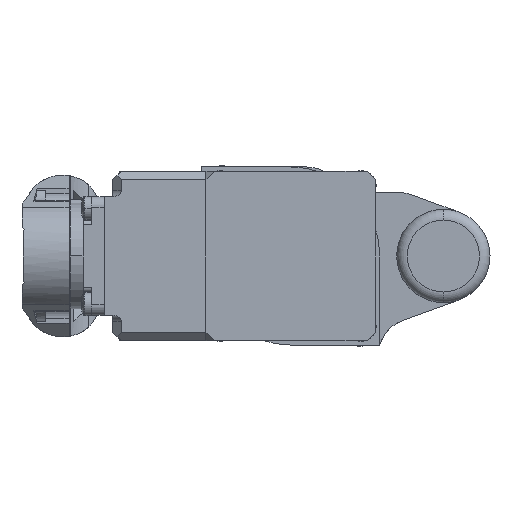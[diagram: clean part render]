
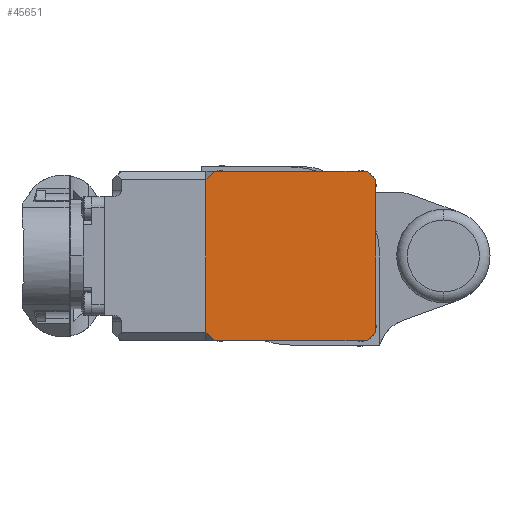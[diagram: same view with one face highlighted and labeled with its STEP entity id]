
A CAD part, left-side view. The second image highlights one B-rep face of the part: STEP entity #45651.
In plain terms, the highlighted planar face has unit normal (-1, 0, 0).
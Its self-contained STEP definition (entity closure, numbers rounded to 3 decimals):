
#1064 = FACE_OUTER_BOUND ( 'NONE', #23721, .T. ) ;
#1129 = VERTEX_POINT ( 'NONE', #48889 ) ;
#1259 = CARTESIAN_POINT ( 'NONE',  ( -113., -20., -18. ) ) ;
#2090 = LINE ( 'NONE', #30607, #35230 ) ;
#3948 = CARTESIAN_POINT ( 'NONE',  ( -113., 20., 18. ) ) ;
#4018 = DIRECTION ( 'NONE',  ( 0., 1., 0. ) ) ;
#4663 = LINE ( 'NONE', #3948, #49328 ) ;
#4700 = DIRECTION ( 'NONE',  ( 0., -1., 0. ) ) ;
#4919 = CARTESIAN_POINT ( 'NONE',  ( -113., -20., 18. ) ) ;
#5724 = VERTEX_POINT ( 'NONE', #4919 ) ;
#6969 = CARTESIAN_POINT ( 'NONE',  ( -113., -18., -20. ) ) ;
#10094 = VECTOR ( 'NONE', #19679, 1000. ) ;
#10896 = EDGE_CURVE ( 'NONE', #5724, #38551, #12796, .T. ) ;
#10958 = CARTESIAN_POINT ( 'NONE',  ( -113., -20., -18. ) ) ;
#11073 = EDGE_CURVE ( 'NONE', #36171, #18316, #4663, .T. ) ;
#11147 = VERTEX_POINT ( 'NONE', #43496 ) ;
#11617 = CARTESIAN_POINT ( 'NONE',  ( -113., 0., 0. ) ) ;
#12411 = DIRECTION ( 'NONE',  ( 0., -0.707, -0.707 ) ) ;
#12590 = DIRECTION ( 'NONE',  ( 0., 0.707, -0.707 ) ) ;
#12796 = LINE ( 'NONE', #41233, #10094 ) ;
#13290 = CARTESIAN_POINT ( 'NONE',  ( -113., -18., -20. ) ) ;
#14614 = ORIENTED_EDGE ( 'NONE', *, *, #55099, .T. ) ;
#14779 = ORIENTED_EDGE ( 'NONE', *, *, #11073, .T. ) ;
#15298 = DIRECTION ( 'NONE',  ( 0., 0., 1. ) ) ;
#17001 = EDGE_CURVE ( 'NONE', #38551, #1129, #22516, .T. ) ;
#18122 = ORIENTED_EDGE ( 'NONE', *, *, #29384, .T. ) ;
#18316 = VERTEX_POINT ( 'NONE', #23942 ) ;
#18357 = VECTOR ( 'NONE', #22030, 1000. ) ;
#18506 = CARTESIAN_POINT ( 'NONE',  ( -113., 20., 18. ) ) ;
#19679 = DIRECTION ( 'NONE',  ( 0., 0.707, 0.707 ) ) ;
#20319 = PLANE ( 'NONE',  #35092 ) ;
#21880 = LINE ( 'NONE', #38283, #44883 ) ;
#22030 = DIRECTION ( 'NONE',  ( 0., -0.707, 0.707 ) ) ;
#22516 = LINE ( 'NONE', #34264, #32627 ) ;
#23721 = EDGE_LOOP ( 'NONE', ( #18122, #45133, #39787, #50421, #14614, #14779, #48460, #42473 ) ) ;
#23742 = EDGE_CURVE ( 'NONE', #11147, #51882, #2090, .T. ) ;
#23942 = CARTESIAN_POINT ( 'NONE',  ( -113., 20., -18. ) ) ;
#24655 = DIRECTION ( 'NONE',  ( 0., 0., 1. ) ) ;
#26773 = LINE ( 'NONE', #10958, #36876 ) ;
#29384 = EDGE_CURVE ( 'NONE', #51882, #34156, #29815, .T. ) ;
#29815 = LINE ( 'NONE', #13290, #18357 ) ;
#30607 = CARTESIAN_POINT ( 'NONE',  ( -113., 18., -20. ) ) ;
#30993 = LINE ( 'NONE', #42861, #32320 ) ;
#31792 = CARTESIAN_POINT ( 'NONE',  ( -113., -18., 20. ) ) ;
#32320 = VECTOR ( 'NONE', #12590, 1000. ) ;
#32627 = VECTOR ( 'NONE', #4018, 1000. ) ;
#34156 = VERTEX_POINT ( 'NONE', #1259 ) ;
#34197 = DIRECTION ( 'NONE',  ( 0., 0., -1. ) ) ;
#34264 = CARTESIAN_POINT ( 'NONE',  ( -113., -18., 20. ) ) ;
#35092 = AXIS2_PLACEMENT_3D ( 'NONE', #11617, #50556, #24655 ) ;
#35230 = VECTOR ( 'NONE', #4700, 1000. ) ;
#35592 = EDGE_CURVE ( 'NONE', #18316, #11147, #21880, .T. ) ;
#36171 = VERTEX_POINT ( 'NONE', #18506 ) ;
#36876 = VECTOR ( 'NONE', #15298, 1000. ) ;
#38283 = CARTESIAN_POINT ( 'NONE',  ( -113., 20., -18. ) ) ;
#38551 = VERTEX_POINT ( 'NONE', #31792 ) ;
#39787 = ORIENTED_EDGE ( 'NONE', *, *, #10896, .T. ) ;
#41233 = CARTESIAN_POINT ( 'NONE',  ( -113., -20., 18. ) ) ;
#42261 = EDGE_CURVE ( 'NONE', #34156, #5724, #26773, .T. ) ;
#42473 = ORIENTED_EDGE ( 'NONE', *, *, #23742, .T. ) ;
#42861 = CARTESIAN_POINT ( 'NONE',  ( -113., 18., 20. ) ) ;
#43496 = CARTESIAN_POINT ( 'NONE',  ( -113., 18., -20. ) ) ;
#44883 = VECTOR ( 'NONE', #12411, 1000. ) ;
#45133 = ORIENTED_EDGE ( 'NONE', *, *, #42261, .T. ) ;
#45651 = ADVANCED_FACE ( 'NONE', ( #1064 ), #20319, .T. ) ;
#48460 = ORIENTED_EDGE ( 'NONE', *, *, #35592, .T. ) ;
#48889 = CARTESIAN_POINT ( 'NONE',  ( -113., 18., 20. ) ) ;
#49328 = VECTOR ( 'NONE', #34197, 1000. ) ;
#50421 = ORIENTED_EDGE ( 'NONE', *, *, #17001, .T. ) ;
#50556 = DIRECTION ( 'NONE',  ( -1., 0., 0. ) ) ;
#51882 = VERTEX_POINT ( 'NONE', #6969 ) ;
#55099 = EDGE_CURVE ( 'NONE', #1129, #36171, #30993, .T. ) ;
